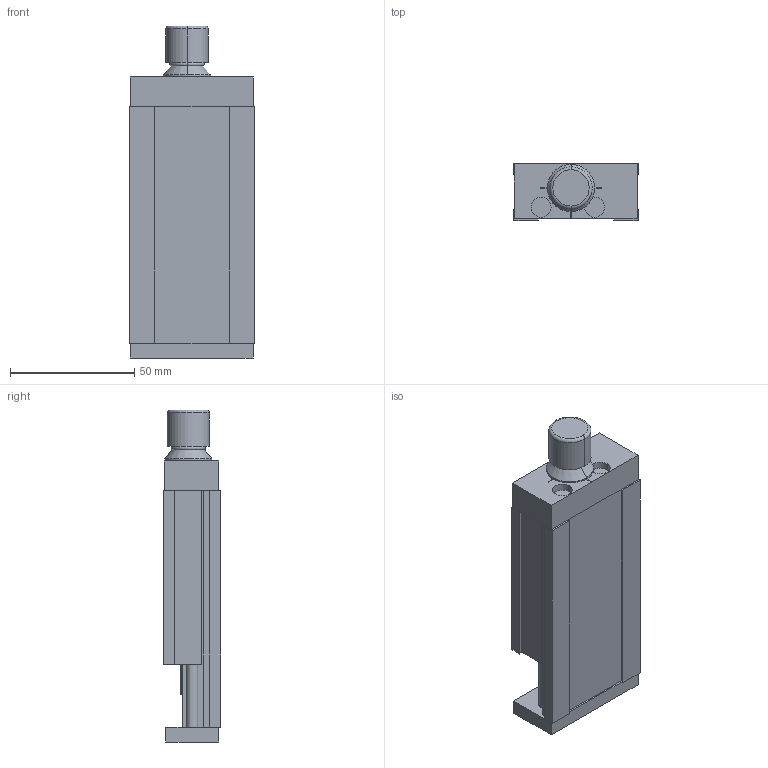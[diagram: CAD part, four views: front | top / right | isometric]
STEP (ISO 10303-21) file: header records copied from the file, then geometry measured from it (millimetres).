
FILE_DESCRIPTION (( 'STEP AP214' ), '1' );
FILE_NAME ('domiLINE 50 Hub 25.STEP', '2006-11-09T15:23:20', ( '' ), ( '' ), 'SwSTEP 2.0', 'SolidWorks 2006040', '' );
FILE_SCHEMA (( 'AUTOMOTIVE_DESIGN' ));
Length unit declared in the file: millimetre
Products named in the file (3): Aussenschlitten 50-+-D009143_ _Standard; dL 50 light-+-D018335_ _Hub 25; domiLINE 50 Hub 25
Assembly tree (2 placements, depth 2):
  domiLINE 50 Hub 25
    dL 50 light-+-D018335_ _Hub 25
    Aussenschlitten 50-+-D009143_ _Standard
Bounding box: 50 x 23 x 133.5 mm (x, y, z)
Volume: 98243.9 mm3; surface area: 41426.5 mm2
Topology: 2 solids, 2 shells, 143 faces, 368 edges, 240 vertices
Faces by surface type: plane 102, cylinder 35, torus 4, cone 2
Entity records: 5280 total; most frequent: CARTESIAN_POINT 756, DIRECTION 744, ORIENTED_EDGE 736, EDGE_CURVE 368, VECTOR 288, LINE 288, VERTEX_POINT 240, AXIS2_PLACEMENT_3D 228
